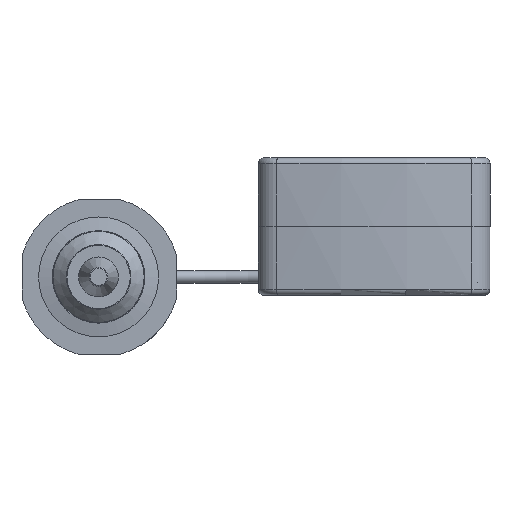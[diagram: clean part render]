
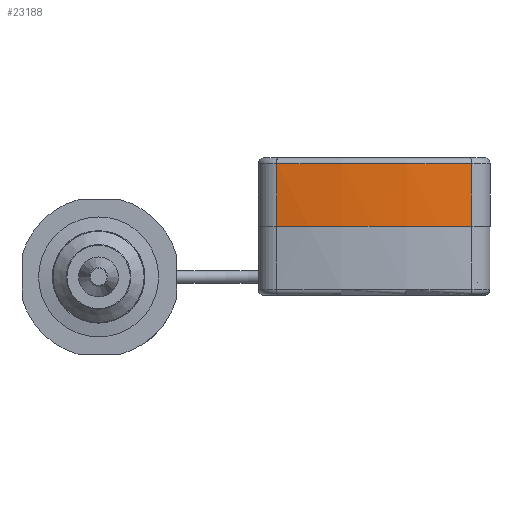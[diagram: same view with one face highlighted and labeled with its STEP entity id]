
A CAD part, front view. The second image highlights one B-rep face of the part: STEP entity #23188.
In plain terms, the highlighted cylindrical face has radius 139.7 mm (diameter 279.4 mm), a partial arc.
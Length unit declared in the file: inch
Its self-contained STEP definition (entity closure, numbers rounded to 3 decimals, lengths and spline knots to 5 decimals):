
#22026=CARTESIAN_POINT('',(120.80015,64.4945,-86.6313));
#22027=VERTEX_POINT('',#22026);
#22138=CARTESIAN_POINT('',(119.73707,64.59827,-86.6313));
#22139=VERTEX_POINT('',#22138);
#22140=CARTESIAN_POINT('',(120.8004,69.9945,-86.6313));
#22141=DIRECTION('',(0.0,0.0,-1.0));
#22142=DIRECTION('',(-1.0,0.0,0.0));
#22143=AXIS2_PLACEMENT_3D('',#22140,#22141,#22142);
#22144=CIRCLE('',#22143,5.5);
#22145=EDGE_CURVE('',#22027,#22139,#22144,.T.);
#22631=CARTESIAN_POINT('',(121.86374,64.59827,-86.6313));
#22632=VERTEX_POINT('',#22631);
#22640=CARTESIAN_POINT('',(120.8004,69.9945,-86.6313));
#22641=DIRECTION('',(0.0,0.0,-1.0));
#22642=DIRECTION('',(-1.0,0.0,0.0));
#22643=AXIS2_PLACEMENT_3D('',#22640,#22641,#22642);
#22644=CIRCLE('',#22643,5.5);
#22645=EDGE_CURVE('',#22632,#22027,#22644,.T.);
#23156=CARTESIAN_POINT('',(120.8004,69.9945,-86.6313));
#23157=DIRECTION('',(0.,0.,1.0));
#23158=DIRECTION('',(-1.0,0.0,0.0));
#23159=AXIS2_PLACEMENT_3D('',#23156,#23157,#23158);
#23160=CYLINDRICAL_SURFACE('',#23159,5.5);
#23161=CARTESIAN_POINT('',(119.73707,64.59827,-85.9443));
#23162=VERTEX_POINT('',#23161);
#23163=CARTESIAN_POINT('',(121.86374,64.59827,-85.9443));
#23164=VERTEX_POINT('',#23163);
#23165=CARTESIAN_POINT('',(120.8004,69.9945,-85.9443));
#23166=DIRECTION('',(0.0,0.0,1.0));
#23167=DIRECTION('',(0.0,-1.0,0.0));
#23168=AXIS2_PLACEMENT_3D('',#23165,#23166,#23167);
#23169=CIRCLE('',#23168,5.5);
#23170=EDGE_CURVE('',#23162,#23164,#23169,.T.);
#23171=ORIENTED_EDGE('',*,*,#23170,.F.);
#23172=CARTESIAN_POINT('',(119.73707,64.59827,-86.6313));
#23173=DIRECTION('',(0.0,0.0,1.0));
#23174=VECTOR('',#23173,0.687);
#23175=LINE('',#23172,#23174);
#23176=EDGE_CURVE('',#22139,#23162,#23175,.T.);
#23177=ORIENTED_EDGE('',*,*,#23176,.F.);
#23178=ORIENTED_EDGE('',*,*,#22145,.F.);
#23179=ORIENTED_EDGE('',*,*,#22645,.F.);
#23180=CARTESIAN_POINT('',(121.86374,64.59827,-86.6313));
#23181=DIRECTION('',(0.0,0.0,1.0));
#23182=VECTOR('',#23181,0.687);
#23183=LINE('',#23180,#23182);
#23184=EDGE_CURVE('',#22632,#23164,#23183,.T.);
#23185=ORIENTED_EDGE('',*,*,#23184,.T.);
#23186=EDGE_LOOP('',(#23171,#23177,#23178,#23179,#23185));
#23187=FACE_OUTER_BOUND('',#23186,.T.);
#23188=ADVANCED_FACE('',(#23187),#23160,.T.);
